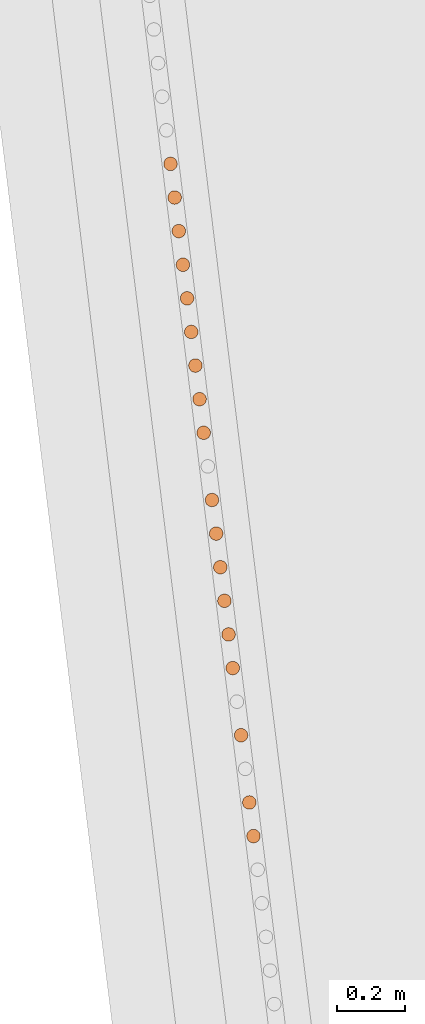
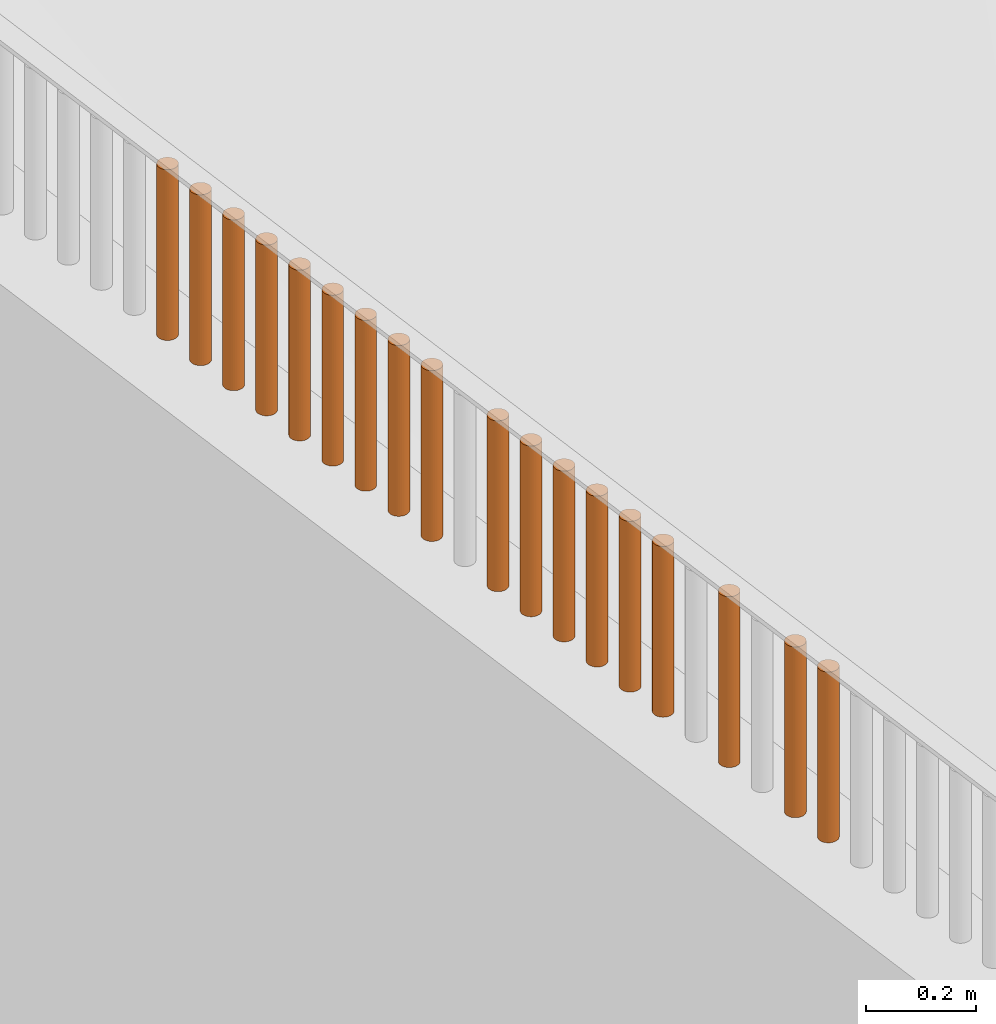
# One storey, part 226 of 1809: 18 proxies, 1 element without a shape of its own.
"""IFC2X3 building model written with IfcOpenShell, lengths in millimetres."""

from ifc_helpers import new_model, entity, si_unit, converted_unit, derived_unit, money_unit, direction, frame, origin_with_axes, place, context, subcontext, project, spatial, faceted_brep, source, transform, mapped, material, type_object, element, aggregate, save


model = new_model("IFC2X3")

# Units and contexts
model_context = context("Model", 3, precision=0.01, world=origin_with_axes(), true_north=direction((0.0, 1.0)))
body_context = subcontext(model_context, "Body", "Model", "MODEL_VIEW")
ifc_project = project(units=[si_unit("LENGTHUNIT", "METRE", prefix="MILLI"), si_unit("AREAUNIT", "SQUARE_METRE"), si_unit("VOLUMEUNIT", "CUBIC_METRE"), converted_unit("PLANEANGLEUNIT", "DEGREE", entity("IfcPlaneAngleMeasure", 0.0174532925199), si_unit("PLANEANGLEUNIT", "RADIAN"), dimensions=[0, 0, 0, 0, 0, 0, 0]), si_unit("SOLIDANGLEUNIT", "STERADIAN"), money_unit("EUR"), converted_unit("TIMEUNIT", "Year", entity("IfcTimeMeasure", 31556926.0), si_unit("TIMEUNIT", "SECOND"), dimensions=[0, 0, 1, 0, 0, 0, 0]), si_unit("MASSUNIT", "GRAM", prefix="KILO"), si_unit("THERMODYNAMICTEMPERATUREUNIT", "DEGREE_CELSIUS"), si_unit("LUMINOUSINTENSITYUNIT", "LUMEN"), si_unit("ENERGYUNIT", "JOULE", prefix="MEGA"), derived_unit("THERMALCONDUCTANCEUNIT", [(si_unit("POWERUNIT", "WATT"), 1), (si_unit("LENGTHUNIT", "METRE"), -1), (si_unit("THERMODYNAMICTEMPERATUREUNIT", "KELVIN"), -1)]), derived_unit("SPECIFICHEATCAPACITYUNIT", [(si_unit("ENERGYUNIT", "JOULE"), 1), (si_unit("MASSUNIT", "GRAM", prefix="KILO"), -1), (si_unit("THERMODYNAMICTEMPERATUREUNIT", "KELVIN"), -1)]), derived_unit("MASSDENSITYUNIT", [(si_unit("MASSUNIT", "GRAM", prefix="KILO"), 1), (si_unit("VOLUMEUNIT", "CUBIC_METRE"), -1)])], contexts=[model_context])

# Site, building, storey
site_placement = place(None, origin_with_axes())
site = spatial("IfcSite", under=ifc_project, at=site_placement, Name="Politse- ja Piirivalveameti ning Päästeameti ühishoone", CompositionType="ELEMENT")
building_placement = place(site_placement, origin_with_axes())
building = spatial("IfcBuilding", under=site, at=building_placement, Name="Politse- ja Piirivalveameti ning Päästeameti ühishoone", CompositionType="ELEMENT")
storey_placement = place(building_placement, origin_with_axes())
storey = spatial("IfcBuildingStorey", under=building, at=storey_placement, Name="Esimene korrus", CompositionType="ELEMENT", Elevation=0.0)

# Proxies
building_element_proxy_type_1 = type_object("IfcBuildingElementProxyType", Name="Railing Type", PredefinedType="NOTDEFINED")
proxy_1_placement = place(storey_placement, frame((-18956.5522504, -53688.4757966, 2100.0), z_axis=(0.0, 0.0, 1.0), x_axis=(1.0, 0.0, 0.0)))
proxy_1 = element("IfcBuildingElementProxy", 1, at=proxy_1_placement, inside=storey, type_object=building_element_proxy_type_1, Name="PIIRDEAED")
ifc_material = material(Name="ET-06_Teras - Konstruktsioon")
building_element_proxy_type_2 = type_object("IfcBuildingElementProxyType", Name="IfcBuildingElementProxy", PredefinedType="NOTDEFINED")
shared_shape_1 = source(origin_with_axes(), body_context, "Body", "Brep", [
    faceted_brep([(0.0, -20.0, 0.0), (3.47296355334, -19.6961550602, 0.0), (3.47296355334, -19.6961550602, 380.000012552), (0.0, -20.0, 380.000012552), (-3.47296355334, -19.6961550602, 0.0), (-6.84040286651, -18.7938524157, 0.0), (-10.0, -17.3205080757, 0.0), (-12.8557521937, -15.3208888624, 0.0), (-15.3208888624, -12.8557521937, 0.0), (-17.3205080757, -10.0, 0.0), (-18.7938524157, -6.84040286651, 0.0), (-19.6961550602, -3.47296355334, 0.0), (-20.0, 0.0, 0.0), (-19.6961550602, 3.47296355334, 0.0), (-18.7938524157, 6.84040286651, 0.0), (-17.3205080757, 10.0, 0.0), (-15.3208888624, 12.8557521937, 0.0), (-12.8557521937, 15.3208888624, 0.0), (-10.0, 17.3205080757, 0.0), (-6.84040286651, 18.7938524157, 0.0), (-3.47296355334, 19.6961550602, 0.0), (0.0, 20.0, 0.0), (3.47296355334, 19.6961550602, 0.0), (6.84040286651, 18.7938524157, 0.0), (10.0, 17.3205080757, 0.0), (12.8557521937, 15.3208888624, 0.0), (15.3208888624, 12.8557521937, 0.0), (17.3205080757, 10.0, 0.0), (18.7938524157, 6.84040286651, 0.0), (19.6961550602, 3.47296355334, 0.0), (20.0, 0.0, 0.0), (19.6961550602, -3.47296355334, 0.0), (18.7938524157, -6.84040286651, 0.0), (17.3205080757, -10.0, 0.0), (15.3208888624, -12.8557521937, 0.0), (12.8557521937, -15.3208888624, 0.0), (10.0, -17.3205080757, 0.0), (6.84040286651, -18.7938524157, 0.0), (6.84040286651, -18.7938524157, 380.000012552), (10.0, -17.3205080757, 380.000012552), (12.8557521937, -15.3208888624, 380.000012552), (15.3208888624, -12.8557521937, 380.000012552), (17.3205080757, -10.0, 380.000012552), (18.7938524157, -6.84040286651, 380.000012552), (19.6961550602, -3.47296355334, 380.000012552), (20.0, 0.0, 380.000012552), (19.6961550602, 3.47296355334, 380.000012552), (18.7938524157, 6.84040286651, 380.000012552), (17.3205080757, 10.0, 380.000012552), (15.3208888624, 12.8557521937, 380.000012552), (12.8557521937, 15.3208888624, 380.000012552), (10.0, 17.3205080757, 380.000012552), (6.84040286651, 18.7938524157, 380.000012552), (3.47296355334, 19.6961550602, 380.000012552), (0.0, 20.0, 380.000012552), (-3.47296355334, 19.6961550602, 380.000012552), (-6.84040286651, 18.7938524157, 380.000012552), (-10.0, 17.3205080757, 380.000012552), (-12.8557521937, 15.3208888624, 380.000012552), (-15.3208888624, 12.8557521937, 380.000012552), (-17.3205080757, 10.0, 380.000012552), (-18.7938524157, 6.84040286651, 380.000012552), (-19.6961550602, 3.47296355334, 380.000012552), (-20.0, 0.0, 380.000012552), (-19.6961550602, -3.47296355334, 380.000012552), (-18.7938524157, -6.84040286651, 380.000012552), (-17.3205080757, -10.0, 380.000012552), (-15.3208888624, -12.8557521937, 380.000012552), (-12.8557521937, -15.3208888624, 380.000012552), (-10.0, -17.3205080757, 380.000012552), (-6.84040286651, -18.7938524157, 380.000012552), (-3.47296355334, -19.6961550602, 380.000012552)], [[[0, 1, 2, 3]], [[0, 4, 5, 6, 7, 8, 9, 10, 11, 12, 13, 14, 15, 16, 17, 18, 19, 20, 21, 22, 23, 24, 25, 26, 27, 28, 29, 30, 31, 32, 33, 34, 35, 36, 37, 1]], [[1, 37, 38, 2]], [[3, 2, 38, 39, 40, 41, 42, 43, 44, 45, 46, 47, 48, 49, 50, 51, 52, 53, 54, 55, 56, 57, 58, 59, 60, 61, 62, 63, 64, 65, 66, 67, 68, 69, 70, 71]], [[4, 0, 3, 71]], [[5, 4, 71, 70]], [[6, 5, 70, 69]], [[7, 6, 69, 68]], [[8, 7, 68, 67]], [[9, 8, 67, 66]], [[10, 9, 66, 65]], [[11, 10, 65, 64]], [[12, 11, 64, 63]], [[13, 12, 63, 62]], [[14, 13, 62, 61]], [[15, 14, 61, 60]], [[16, 15, 60, 59]], [[17, 16, 59, 58]], [[18, 17, 58, 57]], [[19, 18, 57, 56]], [[20, 19, 56, 55]], [[21, 20, 55, 54]], [[22, 21, 54, 53]], [[23, 22, 53, 52]], [[24, 23, 52, 51]], [[25, 24, 51, 50]], [[26, 25, 50, 49]], [[27, 26, 49, 48]], [[28, 27, 48, 47]], [[29, 28, 47, 46]], [[30, 29, 46, 45]], [[31, 30, 45, 44]], [[32, 31, 44, 43]], [[33, 32, 43, 42]], [[34, 33, 42, 41]], [[35, 34, 41, 40]], [[36, 35, 40, 39]], [[37, 36, 39, 38]]]),
])
proxy_2_placement = place(proxy_1_placement, frame((-5518.75611923, 43876.3238666, -1.25517001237e-05), z_axis=(0.0, 0.0, 1.0), x_axis=(1.0, 0.0, 0.0)))
proxy_2 = element("IfcBuildingElementProxy", 2, at=proxy_2_placement, type_object=building_element_proxy_type_2, material=ifc_material, Name="BALUSTER - 001", context=body_context, shape_type="MappedRepresentation", body=[
    mapped(shared_shape_1, transform((0.0, 0.0, 0.0), x_axis=(0.992468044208, 0.122503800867, 0.0), y_axis=(-0.122503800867, 0.992468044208, 0.0), z_axis=(0.0, 0.0, 1.0))),
])
proxy_3_placement = place(proxy_1_placement, frame((-5543.25152906, 44074.7741294, -1.25517001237e-05), z_axis=(0.0, 0.0, 1.0), x_axis=(1.0, 0.0, 0.0)))
proxy_3 = element("IfcBuildingElementProxy", 3, at=proxy_3_placement, type_object=building_element_proxy_type_2, material=ifc_material, Name="BALUSTER - 001", context=body_context, shape_type="MappedRepresentation", body=[
    mapped(shared_shape_1, transform((0.0, 0.0, 0.0), x_axis=(0.992468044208, 0.122503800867, 0.0), y_axis=(-0.122503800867, 0.992468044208, 0.0), z_axis=(0.0, 0.0, 1.0))),
])
proxy_4_placement = place(proxy_1_placement, frame((-5567.74693889, 44273.2243923, -1.25517001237e-05), z_axis=(0.0, 0.0, 1.0), x_axis=(1.0, 0.0, 0.0)))
proxy_4 = element("IfcBuildingElementProxy", 4, at=proxy_4_placement, type_object=building_element_proxy_type_2, material=ifc_material, Name="BALUSTER - 001", context=body_context, shape_type="MappedRepresentation", body=[
    mapped(shared_shape_1, transform((0.0, 0.0, 0.0), x_axis=(0.992468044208, 0.122503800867, 0.0), y_axis=(-0.122503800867, 0.992468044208, 0.0), z_axis=(0.0, 0.0, 1.0))),
])
proxy_5_placement = place(proxy_1_placement, frame((-5592.24234871, 44471.6746551, -1.25517001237e-05), z_axis=(0.0, 0.0, 1.0), x_axis=(1.0, 0.0, 0.0)))
proxy_5 = element("IfcBuildingElementProxy", 5, at=proxy_5_placement, type_object=building_element_proxy_type_2, material=ifc_material, Name="BALUSTER - 001", context=body_context, shape_type="MappedRepresentation", body=[
    mapped(shared_shape_1, transform((0.0, 0.0, 0.0), x_axis=(0.992468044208, 0.122503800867, 0.0), y_axis=(-0.122503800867, 0.992468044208, 0.0), z_axis=(0.0, 0.0, 1.0))),
])
proxy_6_placement = place(proxy_1_placement, frame((-5616.73775854, 44670.124918, -1.25517001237e-05), z_axis=(0.0, 0.0, 1.0), x_axis=(1.0, 0.0, 0.0)))
proxy_6 = element("IfcBuildingElementProxy", 6, at=proxy_6_placement, type_object=building_element_proxy_type_2, material=ifc_material, Name="BALUSTER - 001", context=body_context, shape_type="MappedRepresentation", body=[
    mapped(shared_shape_1, transform((0.0, 0.0, 0.0), x_axis=(0.992468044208, 0.122503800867, 0.0), y_axis=(-0.122503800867, 0.992468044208, 0.0), z_axis=(0.0, 0.0, 1.0))),
])
shared_shape_2 = source(origin_with_axes(), body_context, "Body", "Brep", [
    faceted_brep([(0.0, -20.0, 0.0), (3.47296355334, -19.6961550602, 0.0), (3.47296355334, -19.6961550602, 380.000012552), (0.0, -20.0, 380.000012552), (-3.47296355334, -19.6961550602, 0.0), (-6.84040286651, -18.7938524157, 0.0), (-10.0, -17.3205080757, 0.0), (-12.8557521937, -15.3208888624, 0.0), (-15.3208888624, -12.8557521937, 0.0), (-17.3205080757, -10.0, 0.0), (-18.7938524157, -6.84040286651, 0.0), (-19.6961550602, -3.47296355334, 0.0), (-20.0, 0.0, 0.0), (-19.6961550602, 3.47296355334, 0.0), (-18.7938524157, 6.84040286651, 0.0), (-17.3205080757, 10.0, 0.0), (-15.3208888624, 12.8557521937, 0.0), (-12.8557521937, 15.3208888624, 0.0), (-10.0, 17.3205080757, 0.0), (-6.84040286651, 18.7938524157, 0.0), (-3.47296355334, 19.6961550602, 0.0), (0.0, 20.0, 0.0), (3.47296355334, 19.6961550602, 0.0), (6.84040286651, 18.7938524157, 0.0), (10.0, 17.3205080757, 0.0), (12.8557521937, 15.3208888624, 0.0), (15.3208888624, 12.8557521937, 0.0), (17.3205080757, 10.0, 0.0), (18.7938524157, 6.84040286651, 0.0), (19.6961550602, 3.47296355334, 0.0), (20.0, 0.0, 0.0), (19.6961550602, -3.47296355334, 0.0), (18.7938524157, -6.84040286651, 0.0), (17.3205080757, -10.0, 0.0), (15.3208888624, -12.8557521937, 0.0), (12.8557521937, -15.3208888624, 0.0), (10.0, -17.3205080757, 0.0), (6.84040286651, -18.7938524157, 0.0), (6.84040286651, -18.7938524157, 380.000012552), (10.0, -17.3205080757, 380.000012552), (12.8557521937, -15.3208888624, 380.000012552), (15.3208888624, -12.8557521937, 380.000012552), (17.3205080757, -10.0, 380.000012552), (18.7938524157, -6.84040286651, 380.000012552), (19.6961550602, -3.47296355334, 380.000012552), (20.0, 0.0, 380.000012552), (19.6961550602, 3.47296355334, 380.000012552), (18.7938524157, 6.84040286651, 380.000012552), (17.3205080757, 10.0, 380.000012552), (15.3208888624, 12.8557521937, 380.000012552), (12.8557521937, 15.3208888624, 380.000012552), (10.0, 17.3205080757, 380.000012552), (6.84040286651, 18.7938524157, 380.000012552), (3.47296355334, 19.6961550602, 380.000012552), (0.0, 20.0, 380.000012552), (-3.47296355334, 19.6961550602, 380.000012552), (-6.84040286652, 18.7938524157, 380.000012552), (-10.0, 17.3205080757, 380.000012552), (-12.8557521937, 15.3208888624, 380.000012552), (-15.3208888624, 12.8557521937, 380.000012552), (-17.3205080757, 10.0, 380.000012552), (-18.7938524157, 6.84040286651, 380.000012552), (-19.6961550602, 3.47296355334, 380.000012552), (-20.0, 0.0, 380.000012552), (-19.6961550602, -3.47296355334, 380.000012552), (-18.7938524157, -6.84040286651, 380.000012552), (-17.3205080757, -10.0, 380.000012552), (-15.3208888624, -12.8557521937, 380.000012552), (-12.8557521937, -15.3208888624, 380.000012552), (-10.0, -17.3205080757, 380.000012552), (-6.84040286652, -18.7938524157, 380.000012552), (-3.47296355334, -19.6961550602, 380.000012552)], [[[0, 1, 2, 3]], [[0, 4, 5, 6, 7, 8, 9, 10, 11, 12, 13, 14, 15, 16, 17, 18, 19, 20, 21, 22, 23, 24, 25, 26, 27, 28, 29, 30, 31, 32, 33, 34, 35, 36, 37, 1]], [[1, 37, 38, 2]], [[3, 2, 38, 39, 40, 41, 42, 43, 44, 45, 46, 47, 48, 49, 50, 51, 52, 53, 54, 55, 56, 57, 58, 59, 60, 61, 62, 63, 64, 65, 66, 67, 68, 69, 70, 71]], [[4, 0, 3, 71]], [[5, 4, 71, 70]], [[6, 5, 70, 69]], [[7, 6, 69, 68]], [[8, 7, 68, 67]], [[9, 8, 67, 66]], [[10, 9, 66, 65]], [[11, 10, 65, 64]], [[12, 11, 64, 63]], [[13, 12, 63, 62]], [[14, 13, 62, 61]], [[15, 14, 61, 60]], [[16, 15, 60, 59]], [[17, 16, 59, 58]], [[18, 17, 58, 57]], [[19, 18, 57, 56]], [[20, 19, 56, 55]], [[21, 20, 55, 54]], [[22, 21, 54, 53]], [[23, 22, 53, 52]], [[24, 23, 52, 51]], [[25, 24, 51, 50]], [[26, 25, 50, 49]], [[27, 26, 49, 48]], [[28, 27, 48, 47]], [[29, 28, 47, 46]], [[30, 29, 46, 45]], [[31, 30, 45, 44]], [[32, 31, 44, 43]], [[33, 32, 43, 42]], [[34, 33, 42, 41]], [[35, 34, 41, 40]], [[36, 35, 40, 39]], [[37, 36, 39, 38]]]),
])
proxy_7_placement = place(proxy_1_placement, frame((-5555.49923397, 44173.9992608, -1.25517001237e-05), z_axis=(0.0, 0.0, 1.0), x_axis=(1.0, 0.0, 0.0)))
proxy_7 = element("IfcBuildingElementProxy", 7, at=proxy_7_placement, type_object=building_element_proxy_type_2, material=ifc_material, Name="BALUSTER - 001", context=body_context, shape_type="MappedRepresentation", body=[
    mapped(shared_shape_2, transform((0.0, 0.0, 0.0), x_axis=(0.992468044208, 0.122503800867, 0.0), y_axis=(-0.122503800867, 0.992468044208, 0.0), z_axis=(0.0, 0.0, 1.0))),
])
proxy_8_placement = place(proxy_1_placement, frame((-5604.49005363, 44570.8997865, -1.25517001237e-05), z_axis=(0.0, 0.0, 1.0), x_axis=(1.0, 0.0, 0.0)))
proxy_8 = element("IfcBuildingElementProxy", 8, at=proxy_8_placement, type_object=building_element_proxy_type_2, material=ifc_material, Name="BALUSTER - 001", context=body_context, shape_type="MappedRepresentation", body=[
    mapped(shared_shape_2, transform((0.0, 0.0, 0.0), x_axis=(0.992468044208, 0.122503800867, 0.0), y_axis=(-0.122503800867, 0.992468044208, 0.0), z_axis=(0.0, 0.0, 1.0))),
])
proxy_9_placement = place(proxy_1_placement, frame((-5628.98546345, 44769.3500494, -1.25517001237e-05), z_axis=(0.0, 0.0, 1.0), x_axis=(1.0, 0.0, 0.0)))
proxy_9 = element("IfcBuildingElementProxy", 9, at=proxy_9_placement, type_object=building_element_proxy_type_2, material=ifc_material, Name="BALUSTER - 001", context=body_context, shape_type="MappedRepresentation", body=[
    mapped(shared_shape_2, transform((0.0, 0.0, 0.0), x_axis=(0.992468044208, 0.122503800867, 0.0), y_axis=(-0.122503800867, 0.992468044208, 0.0), z_axis=(0.0, 0.0, 1.0))),
])
proxy_10_placement = place(proxy_1_placement, frame((-5665.72857819, 45067.0254437, -1.25517001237e-05), z_axis=(0.0, 0.0, 1.0), x_axis=(1.0, 0.0, 0.0)))
proxy_10 = element("IfcBuildingElementProxy", 10, at=proxy_10_placement, type_object=building_element_proxy_type_2, material=ifc_material, Name="BALUSTER - 001", context=body_context, shape_type="MappedRepresentation", body=[
    mapped(shared_shape_2, transform((0.0, 0.0, 0.0), x_axis=(0.992468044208, 0.122503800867, 0.0), y_axis=(-0.122503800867, 0.992468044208, 0.0), z_axis=(0.0, 0.0, 1.0))),
])
shared_shape_3 = source(origin_with_axes(), body_context, "Body", "Brep", [
    faceted_brep([(0.0, -20.0, 0.0), (3.47296355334, -19.6961550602, 0.0), (3.47296355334, -19.6961550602, 380.000012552), (0.0, -20.0, 380.000012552), (-3.47296355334, -19.6961550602, 0.0), (-6.84040286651, -18.7938524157, 0.0), (-10.0, -17.3205080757, 0.0), (-12.8557521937, -15.3208888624, 0.0), (-15.3208888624, -12.8557521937, 0.0), (-17.3205080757, -10.0, 0.0), (-18.7938524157, -6.84040286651, 0.0), (-19.6961550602, -3.47296355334, 0.0), (-20.0, 0.0, 0.0), (-19.6961550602, 3.47296355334, 0.0), (-18.7938524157, 6.84040286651, 0.0), (-17.3205080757, 10.0, 0.0), (-15.3208888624, 12.8557521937, 0.0), (-12.8557521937, 15.3208888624, 0.0), (-10.0, 17.3205080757, 0.0), (-6.84040286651, 18.7938524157, 0.0), (-3.47296355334, 19.6961550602, 0.0), (0.0, 20.0, 0.0), (3.47296355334, 19.6961550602, 0.0), (6.84040286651, 18.7938524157, 0.0), (10.0, 17.3205080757, 0.0), (12.8557521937, 15.3208888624, 0.0), (15.3208888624, 12.8557521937, 0.0), (17.3205080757, 10.0, 0.0), (18.7938524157, 6.84040286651, 0.0), (19.6961550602, 3.47296355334, 0.0), (20.0, 0.0, 0.0), (19.6961550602, -3.47296355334, 0.0), (18.7938524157, -6.84040286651, 0.0), (17.3205080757, -10.0, 0.0), (15.3208888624, -12.8557521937, 0.0), (12.8557521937, -15.3208888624, 0.0), (10.0, -17.3205080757, 0.0), (6.84040286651, -18.7938524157, 0.0), (6.84040286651, -18.7938524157, 380.000012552), (10.0, -17.3205080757, 380.000012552), (12.8557521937, -15.3208888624, 380.000012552), (15.3208888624, -12.8557521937, 380.000012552), (17.3205080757, -10.0, 380.000012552), (18.7938524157, -6.84040286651, 380.000012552), (19.6961550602, -3.47296355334, 380.000012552), (20.0, 0.0, 380.000012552), (19.6961550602, 3.47296355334, 380.000012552), (18.7938524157, 6.84040286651, 380.000012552), (17.3205080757, 10.0, 380.000012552), (15.3208888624, 12.8557521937, 380.000012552), (12.8557521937, 15.3208888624, 380.000012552), (10.0, 17.3205080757, 380.000012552), (6.84040286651, 18.7938524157, 380.000012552), (3.47296355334, 19.6961550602, 380.000012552), (0.0, 20.0, 380.000012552), (-3.47296355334, 19.6961550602, 380.000012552), (-6.84040286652, 18.7938524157, 380.000012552), (-10.0, 17.3205080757, 380.000012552), (-12.8557521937, 15.3208888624, 380.000012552), (-15.3208888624, 12.8557521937, 380.000012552), (-17.3205080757, 10.0, 380.000012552), (-18.7938524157, 6.84040286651, 380.000012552), (-19.6961550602, 3.47296355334, 380.000012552), (-20.0, 0.0, 380.000012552), (-19.6961550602, -3.47296355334, 380.000012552), (-18.7938524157, -6.84040286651, 380.000012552), (-17.3205080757, -10.0, 380.000012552), (-15.3208888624, -12.8557521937, 380.000012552), (-12.8557521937, -15.3208888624, 380.000012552), (-10.0, -17.3205080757, 380.000012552), (-6.84040286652, -18.7938524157, 380.000012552), (-3.47296355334, -19.6961550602, 380.000012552)], [[[0, 1, 2, 3]], [[0, 4, 5, 6, 7, 8, 9, 10, 11, 12, 13, 14, 15, 16, 17, 18, 19, 20, 21, 22, 23, 24, 25, 26, 27, 28, 29, 30, 31, 32, 33, 34, 35, 36, 37, 1]], [[1, 37, 38, 2]], [[3, 2, 38, 39, 40, 41, 42, 43, 44, 45, 46, 47, 48, 49, 50, 51, 52, 53, 54, 55, 56, 57, 58, 59, 60, 61, 62, 63, 64, 65, 66, 67, 68, 69, 70, 71]], [[4, 0, 3, 71]], [[5, 4, 71, 70]], [[6, 5, 70, 69]], [[7, 6, 69, 68]], [[8, 7, 68, 67]], [[9, 8, 67, 66]], [[10, 9, 66, 65]], [[11, 10, 65, 64]], [[12, 11, 64, 63]], [[13, 12, 63, 62]], [[14, 13, 62, 61]], [[15, 14, 61, 60]], [[16, 15, 60, 59]], [[17, 16, 59, 58]], [[18, 17, 58, 57]], [[19, 18, 57, 56]], [[20, 19, 56, 55]], [[21, 20, 55, 54]], [[22, 21, 54, 53]], [[23, 22, 53, 52]], [[24, 23, 52, 51]], [[25, 24, 51, 50]], [[26, 25, 50, 49]], [[27, 26, 49, 48]], [[28, 27, 48, 47]], [[29, 28, 47, 46]], [[30, 29, 46, 45]], [[31, 30, 45, 44]], [[32, 31, 44, 43]], [[33, 32, 43, 42]], [[34, 33, 42, 41]], [[35, 34, 41, 40]], [[36, 35, 40, 39]], [[37, 36, 39, 38]]]),
])
proxy_11_placement = place(proxy_1_placement, frame((-5445.26988976, 43280.973078, -1.25517001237e-05), z_axis=(0.0, 0.0, 1.0), x_axis=(1.0, 0.0, 0.0)))
proxy_11 = element("IfcBuildingElementProxy", 11, at=proxy_11_placement, type_object=building_element_proxy_type_2, material=ifc_material, Name="BALUSTER - 001", context=body_context, shape_type="MappedRepresentation", body=[
    mapped(shared_shape_3, transform((0.0, 0.0, 0.0), x_axis=(0.992468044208, 0.122503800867, 0.0), y_axis=(-0.122503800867, 0.992468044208, 0.0), z_axis=(0.0, 0.0, 1.0))),
])
proxy_12_placement = place(proxy_1_placement, frame((-5457.51759467, 43380.1982094, -1.25517001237e-05), z_axis=(0.0, 0.0, 1.0), x_axis=(1.0, 0.0, 0.0)))
proxy_12 = element("IfcBuildingElementProxy", 12, at=proxy_12_placement, type_object=building_element_proxy_type_2, material=ifc_material, Name="BALUSTER - 001", context=body_context, shape_type="MappedRepresentation", body=[
    mapped(shared_shape_3, transform((0.0, 0.0, 0.0), x_axis=(0.992468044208, 0.122503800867, 0.0), y_axis=(-0.122503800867, 0.992468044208, 0.0), z_axis=(0.0, 0.0, 1.0))),
])
proxy_13_placement = place(proxy_1_placement, frame((-5506.50841432, 43777.0987351, -1.25517001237e-05), z_axis=(0.0, 0.0, 1.0), x_axis=(1.0, 0.0, 0.0)))
proxy_13 = element("IfcBuildingElementProxy", 13, at=proxy_13_placement, type_object=building_element_proxy_type_2, material=ifc_material, Name="BALUSTER - 001", context=body_context, shape_type="MappedRepresentation", body=[
    mapped(shared_shape_3, transform((0.0, 0.0, 0.0), x_axis=(0.992468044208, 0.122503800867, 0.0), y_axis=(-0.122503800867, 0.992468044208, 0.0), z_axis=(0.0, 0.0, 1.0))),
])
proxy_14_placement = place(proxy_1_placement, frame((-5641.23316837, 44868.5751808, -1.25517001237e-05), z_axis=(0.0, 0.0, 1.0), x_axis=(1.0, 0.0, 0.0)))
proxy_14 = element("IfcBuildingElementProxy", 14, at=proxy_14_placement, type_object=building_element_proxy_type_2, material=ifc_material, Name="BALUSTER - 001", context=body_context, shape_type="MappedRepresentation", body=[
    mapped(shared_shape_3, transform((0.0, 0.0, 0.0), x_axis=(0.992468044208, 0.122503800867, 0.0), y_axis=(-0.122503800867, 0.992468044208, 0.0), z_axis=(0.0, 0.0, 1.0))),
])
proxy_15_placement = place(proxy_1_placement, frame((-5653.48087328, 44967.8003123, -1.25517001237e-05), z_axis=(0.0, 0.0, 1.0), x_axis=(1.0, 0.0, 0.0)))
proxy_15 = element("IfcBuildingElementProxy", 15, at=proxy_15_placement, type_object=building_element_proxy_type_2, material=ifc_material, Name="BALUSTER - 001", context=body_context, shape_type="MappedRepresentation", body=[
    mapped(shared_shape_3, transform((0.0, 0.0, 0.0), x_axis=(0.992468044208, 0.122503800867, 0.0), y_axis=(-0.122503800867, 0.992468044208, 0.0), z_axis=(0.0, 0.0, 1.0))),
])
shared_shape_4 = source(origin_with_axes(), body_context, "Body", "Brep", [
    faceted_brep([(0.0, -20.0, 0.0), (3.47296355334, -19.6961550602, 0.0), (3.47296355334, -19.6961550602, 380.000012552), (0.0, -20.0, 380.000012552), (-3.47296355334, -19.6961550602, 0.0), (-6.84040286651, -18.7938524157, 0.0), (-10.0, -17.3205080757, 0.0), (-12.8557521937, -15.3208888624, 0.0), (-15.3208888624, -12.8557521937, 0.0), (-17.3205080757, -10.0, 0.0), (-18.7938524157, -6.84040286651, 0.0), (-19.6961550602, -3.47296355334, 0.0), (-20.0, 0.0, 0.0), (-19.6961550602, 3.47296355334, 0.0), (-18.7938524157, 6.84040286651, 0.0), (-17.3205080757, 10.0, 0.0), (-15.3208888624, 12.8557521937, 0.0), (-12.8557521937, 15.3208888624, 0.0), (-10.0, 17.3205080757, 0.0), (-6.84040286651, 18.7938524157, 0.0), (-3.47296355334, 19.6961550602, 0.0), (0.0, 20.0, 0.0), (3.47296355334, 19.6961550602, 0.0), (6.84040286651, 18.7938524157, 0.0), (10.0, 17.3205080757, 0.0), (12.8557521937, 15.3208888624, 0.0), (15.3208888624, 12.8557521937, 0.0), (17.3205080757, 10.0, 0.0), (18.7938524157, 6.84040286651, 0.0), (19.6961550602, 3.47296355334, 0.0), (20.0, 0.0, 0.0), (19.6961550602, -3.47296355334, 0.0), (18.7938524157, -6.84040286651, 0.0), (17.3205080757, -10.0, 0.0), (15.3208888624, -12.8557521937, 0.0), (12.8557521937, -15.3208888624, 0.0), (10.0, -17.3205080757, 0.0), (6.84040286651, -18.7938524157, 0.0), (6.84040286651, -18.7938524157, 380.000012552), (10.0, -17.3205080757, 380.000012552), (12.8557521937, -15.3208888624, 380.000012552), (15.3208888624, -12.8557521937, 380.000012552), (17.3205080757, -10.0, 380.000012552), (18.7938524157, -6.84040286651, 380.000012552), (19.6961550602, -3.47296355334, 380.000012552), (20.0, 0.0, 380.000012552), (19.6961550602, 3.47296355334, 380.000012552), (18.7938524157, 6.84040286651, 380.000012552), (17.3205080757, 10.0, 380.000012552), (15.3208888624, 12.8557521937, 380.000012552), (12.8557521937, 15.3208888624, 380.000012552), (10.0, 17.3205080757, 380.000012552), (6.84040286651, 18.7938524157, 380.000012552), (3.47296355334, 19.6961550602, 380.000012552), (0.0, 20.0, 380.000012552), (-3.47296355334, 19.6961550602, 380.000012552), (-6.84040286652, 18.7938524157, 380.000012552), (-10.0, 17.3205080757, 380.000012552), (-12.8557521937, 15.3208888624, 380.000012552), (-15.3208888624, 12.8557521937, 380.000012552), (-17.3205080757, 10.0, 380.000012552), (-18.7938524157, 6.84040286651, 380.000012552), (-19.6961550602, 3.47296355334, 380.000012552), (-20.0, 0.0, 380.000012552), (-19.6961550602, -3.47296355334, 380.000012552), (-18.7938524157, -6.84040286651, 380.000012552), (-17.3205080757, -10.0, 380.000012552), (-15.3208888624, -12.8557521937, 380.000012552), (-12.8557521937, -15.3208888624, 380.000012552), (-10.0, -17.3205080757, 380.000012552), (-6.84040286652, -18.7938524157, 380.000012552), (-3.47296355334, -19.6961550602, 380.000012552)], [[[0, 1, 2, 3]], [[0, 4, 5, 6, 7, 8, 9, 10, 11, 12, 13, 14, 15, 16, 17, 18, 19, 20, 21, 22, 23, 24, 25, 26, 27, 28, 29, 30, 31, 32, 33, 34, 35, 36, 37, 1]], [[1, 37, 38, 2]], [[3, 2, 38, 39, 40, 41, 42, 43, 44, 45, 46, 47, 48, 49, 50, 51, 52, 53, 54, 55, 56, 57, 58, 59, 60, 61, 62, 63, 64, 65, 66, 67, 68, 69, 70, 71]], [[4, 0, 3, 71]], [[5, 4, 71, 70]], [[6, 5, 70, 69]], [[7, 6, 69, 68]], [[8, 7, 68, 67]], [[9, 8, 67, 66]], [[10, 9, 66, 65]], [[11, 10, 65, 64]], [[12, 11, 64, 63]], [[13, 12, 63, 62]], [[14, 13, 62, 61]], [[15, 14, 61, 60]], [[16, 15, 60, 59]], [[17, 16, 59, 58]], [[18, 17, 58, 57]], [[19, 18, 57, 56]], [[20, 19, 56, 55]], [[21, 20, 55, 54]], [[22, 21, 54, 53]], [[23, 22, 53, 52]], [[24, 23, 52, 51]], [[25, 24, 51, 50]], [[26, 25, 50, 49]], [[27, 26, 49, 48]], [[28, 27, 48, 47]], [[29, 28, 47, 46]], [[30, 29, 46, 45]], [[31, 30, 45, 44]], [[32, 31, 44, 43]], [[33, 32, 43, 42]], [[34, 33, 42, 41]], [[35, 34, 41, 40]], [[36, 35, 40, 39]], [[37, 36, 39, 38]]]),
])
proxy_16_placement = place(proxy_1_placement, frame((-5482.0130045, 43578.6484723, -1.25517001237e-05), z_axis=(0.0, 0.0, 1.0), x_axis=(1.0, 0.0, 0.0)))
proxy_16 = element("IfcBuildingElementProxy", 16, at=proxy_16_placement, type_object=building_element_proxy_type_2, material=ifc_material, Name="BALUSTER - 001", context=body_context, shape_type="MappedRepresentation", body=[
    mapped(shared_shape_4, transform((0.0, 0.0, 0.0), x_axis=(0.992468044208, 0.122503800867, 0.0), y_axis=(-0.122503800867, 0.992468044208, 0.0), z_axis=(0.0, 0.0, 1.0))),
])
proxy_17_placement = place(proxy_1_placement, frame((-5531.00382415, 43975.548998, -1.25517001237e-05), z_axis=(0.0, 0.0, 1.0), x_axis=(1.0, 0.0, 0.0)))
proxy_17 = element("IfcBuildingElementProxy", 17, at=proxy_17_placement, type_object=building_element_proxy_type_2, material=ifc_material, Name="BALUSTER - 001", context=body_context, shape_type="MappedRepresentation", body=[
    mapped(shared_shape_4, transform((0.0, 0.0, 0.0), x_axis=(0.992468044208, 0.122503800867, 0.0), y_axis=(-0.122503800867, 0.992468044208, 0.0), z_axis=(0.0, 0.0, 1.0))),
])
proxy_18_placement = place(proxy_1_placement, frame((-5677.9762831, 45166.2505751, -1.25517001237e-05), z_axis=(0.0, 0.0, 1.0), x_axis=(1.0, 0.0, 0.0)))
proxy_18 = element("IfcBuildingElementProxy", 18, at=proxy_18_placement, type_object=building_element_proxy_type_2, material=ifc_material, Name="BALUSTER - 001", context=body_context, shape_type="MappedRepresentation", body=[
    mapped(shared_shape_4, transform((0.0, 0.0, 0.0), x_axis=(0.992468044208, 0.122503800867, 0.0), y_axis=(-0.122503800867, 0.992468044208, 0.0), z_axis=(0.0, 0.0, 1.0))),
])
shared_shape_5 = source(origin_with_axes(), body_context, "Body", "Brep", [
    faceted_brep([(0.0, -20.0, 0.0), (3.47296355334, -19.6961550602, 0.0), (3.47296355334, -19.6961550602, 380.000012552), (0.0, -20.0, 380.000012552), (-3.47296355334, -19.6961550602, 0.0), (-6.84040286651, -18.7938524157, 0.0), (-10.0, -17.3205080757, 0.0), (-12.8557521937, -15.3208888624, 0.0), (-15.3208888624, -12.8557521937, 0.0), (-17.3205080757, -10.0, 0.0), (-18.7938524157, -6.84040286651, 0.0), (-19.6961550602, -3.47296355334, 0.0), (-20.0, 0.0, 0.0), (-19.6961550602, 3.47296355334, 0.0), (-18.7938524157, 6.84040286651, 0.0), (-17.3205080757, 10.0, 0.0), (-15.3208888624, 12.8557521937, 0.0), (-12.8557521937, 15.3208888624, 0.0), (-10.0, 17.3205080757, 0.0), (-6.84040286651, 18.7938524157, 0.0), (-3.47296355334, 19.6961550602, 0.0), (0.0, 20.0, 0.0), (3.47296355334, 19.6961550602, 0.0), (6.84040286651, 18.7938524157, 0.0), (10.0, 17.3205080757, 0.0), (12.8557521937, 15.3208888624, 0.0), (15.3208888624, 12.8557521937, 0.0), (17.3205080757, 10.0, 0.0), (18.7938524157, 6.84040286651, 0.0), (19.6961550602, 3.47296355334, 0.0), (20.0, 0.0, 0.0), (19.6961550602, -3.47296355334, 0.0), (18.7938524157, -6.84040286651, 0.0), (17.3205080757, -10.0, 0.0), (15.3208888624, -12.8557521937, 0.0), (12.8557521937, -15.3208888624, 0.0), (10.0, -17.3205080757, 0.0), (6.84040286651, -18.7938524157, 0.0), (6.84040286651, -18.7938524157, 380.000012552), (10.0, -17.3205080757, 380.000012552), (12.8557521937, -15.3208888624, 380.000012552), (15.3208888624, -12.8557521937, 380.000012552), (17.3205080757, -10.0, 380.000012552), (18.7938524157, -6.84040286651, 380.000012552), (19.6961550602, -3.47296355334, 380.000012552), (20.0, 0.0, 380.000012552), (19.6961550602, 3.47296355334, 380.000012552), (18.7938524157, 6.84040286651, 380.000012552), (17.3205080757, 10.0, 380.000012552), (15.3208888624, 12.8557521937, 380.000012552), (12.8557521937, 15.3208888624, 380.000012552), (10.0, 17.3205080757, 380.000012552), (6.84040286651, 18.7938524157, 380.000012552), (3.47296355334, 19.6961550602, 380.000012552), (0.0, 20.0, 380.000012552), (-3.47296355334, 19.6961550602, 380.000012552), (-6.84040286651, 18.7938524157, 380.000012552), (-10.0, 17.3205080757, 380.000012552), (-12.8557521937, 15.3208888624, 380.000012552), (-15.3208888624, 12.8557521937, 380.000012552), (-17.3205080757, 10.0, 380.000012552), (-18.7938524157, 6.84040286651, 380.000012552), (-19.6961550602, 3.47296355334, 380.000012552), (-20.0, 0.0, 380.000012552), (-19.6961550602, -3.47296355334, 380.000012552), (-18.7938524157, -6.84040286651, 380.000012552), (-17.3205080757, -10.0, 380.000012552), (-15.3208888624, -12.8557521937, 380.000012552), (-12.8557521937, -15.3208888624, 380.000012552), (-10.0, -17.3205080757, 380.000012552), (-6.84040286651, -18.7938524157, 380.000012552), (-3.47296355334, -19.6961550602, 380.000012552)], [[[0, 1, 2, 3]], [[0, 4, 5, 6, 7, 8, 9, 10, 11, 12, 13, 14, 15, 16, 17, 18, 19, 20, 21, 22, 23, 24, 25, 26, 27, 28, 29, 30, 31, 32, 33, 34, 35, 36, 37, 1]], [[1, 37, 38, 2]], [[3, 2, 38, 39, 40, 41, 42, 43, 44, 45, 46, 47, 48, 49, 50, 51, 52, 53, 54, 55, 56, 57, 58, 59, 60, 61, 62, 63, 64, 65, 66, 67, 68, 69, 70, 71]], [[4, 0, 3, 71]], [[5, 4, 71, 70]], [[6, 5, 70, 69]], [[7, 6, 69, 68]], [[8, 7, 68, 67]], [[9, 8, 67, 66]], [[10, 9, 66, 65]], [[11, 10, 65, 64]], [[12, 11, 64, 63]], [[13, 12, 63, 62]], [[14, 13, 62, 61]], [[15, 14, 61, 60]], [[16, 15, 60, 59]], [[17, 16, 59, 58]], [[18, 17, 58, 57]], [[19, 18, 57, 56]], [[20, 19, 56, 55]], [[21, 20, 55, 54]], [[22, 21, 54, 53]], [[23, 22, 53, 52]], [[24, 23, 52, 51]], [[25, 24, 51, 50]], [[26, 25, 50, 49]], [[27, 26, 49, 48]], [[28, 27, 48, 47]], [[29, 28, 47, 46]], [[30, 29, 46, 45]], [[31, 30, 45, 44]], [[32, 31, 44, 43]], [[33, 32, 43, 42]], [[34, 33, 42, 41]], [[35, 34, 41, 40]], [[36, 35, 40, 39]], [[37, 36, 39, 38]]]),
])
proxy_19_placement = place(proxy_1_placement, frame((-5690.22398802, 45265.4757065, -1.25517001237e-05), z_axis=(0.0, 0.0, 1.0), x_axis=(1.0, 0.0, 0.0)))
proxy_19 = element("IfcBuildingElementProxy", 19, at=proxy_19_placement, type_object=building_element_proxy_type_2, material=ifc_material, Name="BALUSTER - 001", context=body_context, shape_type="MappedRepresentation", body=[
    mapped(shared_shape_5, transform((0.0, 0.0, 0.0), x_axis=(0.992468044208, 0.122503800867, 0.0), y_axis=(-0.122503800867, 0.992468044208, 0.0), z_axis=(0.0, 0.0, 1.0))),
])
aggregate(proxy_1, [proxy_11, proxy_12, proxy_16, proxy_13, proxy_2, proxy_17, proxy_3, proxy_7, proxy_4, proxy_5, proxy_8, proxy_6, proxy_9, proxy_14, proxy_15, proxy_10, proxy_18, proxy_19])

save(model, "model.ifc")
